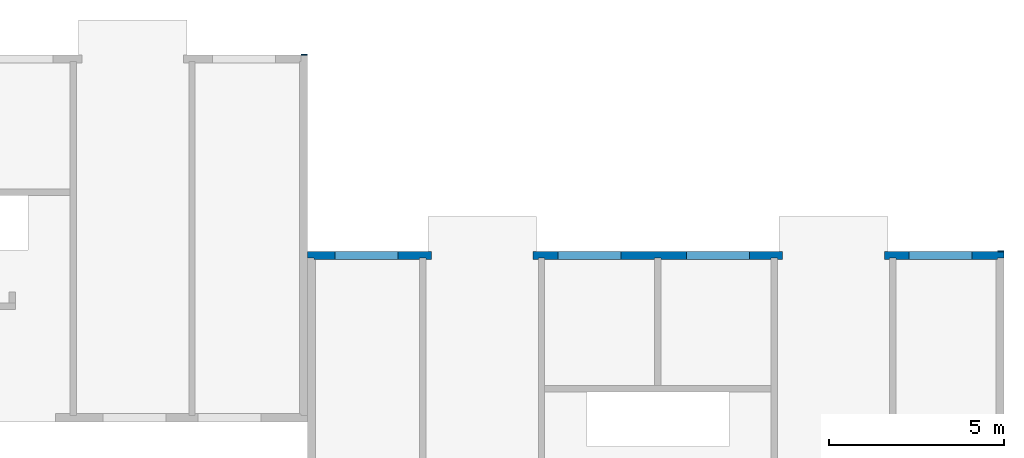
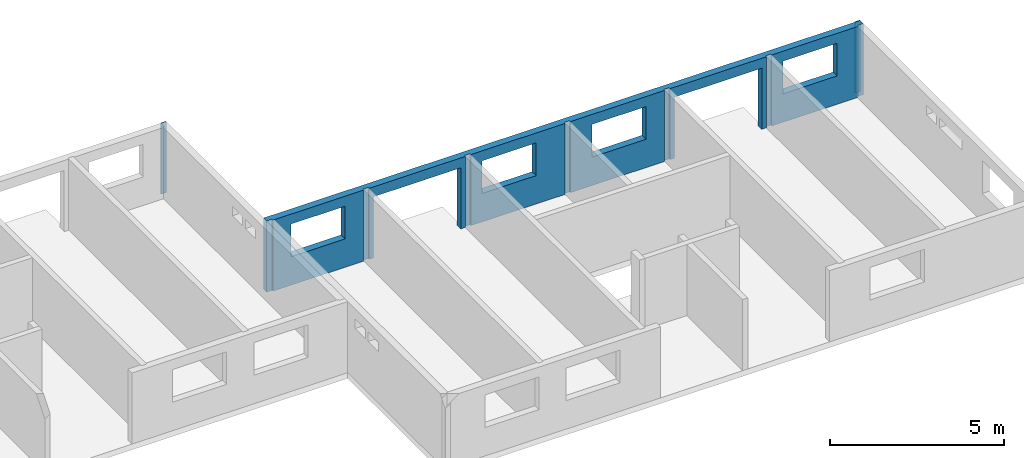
# One storey, part 9 of 9: 3 walls, 6 openings.
"""IFC2X3 building model written with IfcOpenShell, lengths in millimetres."""

from ifc_helpers import new_model, entity, si_unit, converted_unit, frame, frame_2d, origin, origin_with_axes, place, context, subcontext, project, spatial, polyline, rectangle, outline, extrude, material, layer, layer_set, layer_usage, element, save


model = new_model("IFC2X3")

# Units and contexts
model_context = context("Model", 3, precision=1e-05, world=origin())
plan_context = context("Plan", 3, precision=1e-05, world=origin())
body_context = subcontext(model_context, "Body", "Model", "MODEL_VIEW")
ifc_project = project(units=[si_unit("LENGTHUNIT", "METRE", prefix="MILLI"), converted_unit("PLANEANGLEUNIT", "DEGREE", entity("IfcPlaneAngleMeasure", 0.0174532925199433), si_unit("PLANEANGLEUNIT", "RADIAN"), dimensions=[0, 0, 0, 0, 0, 0, 0]), si_unit("AREAUNIT", "SQUARE_METRE"), si_unit("VOLUMEUNIT", "CUBIC_METRE")], contexts=[model_context, plan_context])

# Building, storey
building_placement = place(None, origin())
building = spatial("IfcBuilding", under=ifc_project, at=building_placement, Name="Bâtiment", CompositionType="ELEMENT")
storey_placement = place(building_placement, frame((0.0, 0.0, 5400.0), z_axis=(0.0, 0.0, 1.0), x_axis=(1.0, 0.0, 0.0)))
storey = spatial("IfcBuildingStorey", under=building, at=storey_placement, Name="r+2", CompositionType="ELEMENT", Elevation=5400.0)

# Wall
ifc_material_1 = material(Name="moellons")
ifc_layer_1 = layer(ifc_material_1, 20.00000000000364)
ifc_layer_set_1 = layer_set([ifc_layer_1])
ifc_layer_usage_1 = layer_usage(ifc_layer_set_1, "AXIS2", "POSITIVE", 0.0)
wall_1_placement = place(storey_placement, frame((39699.99999999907, 10470.07776548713, 0.0), z_axis=(0.0, 0.0, 1.0), x_axis=(-1.0, 0.0, 0.0)))
element("IfcWallStandardCase", 1, at=wall_1_placement, inside=storey, material=ifc_layer_usage_1, context=body_context, shape_type="SweptSolid", body=[
    extrude(rectangle(XDim=180.0, YDim=20.00000000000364, at=frame_2d((90.0, 10.00000000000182), x_axis=(1.0, 0.0))), frame((0.0, -20.00000000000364, 0.0), z_axis=(0.0, 0.0, 1.0), x_axis=(1.0, 0.0, 0.0)), (0.0, 0.0, 1.0), 2500.0),
])

# Wall, openings
ifc_material_2 = material(Name="moellons")
ifc_layer_2 = layer(ifc_material_2, 180.0)
ifc_material_3 = material(Name="briquettes")
ifc_layer_3 = layer(ifc_material_3, 40.0)
ifc_material_4 = material(Name="enduit platre")
ifc_layer_4 = layer(ifc_material_4, 10.0)
ifc_layer_set_2 = layer_set([ifc_layer_2, ifc_layer_3, ifc_layer_4])
ifc_layer_usage_2 = layer_usage(ifc_layer_set_2, "AXIS2", "POSITIVE", 0.0)
wall_2_placement = place(storey_placement, frame((59549.99999999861, 4870.077765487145, -9.094947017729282e-13), z_axis=(0.0, 0.0, 1.0), x_axis=(-1.0, 9.163674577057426e-17, 0.0)))
wall_2 = element("IfcWallStandardCase", 2, at=wall_2_placement, inside=storey, material=ifc_layer_usage_2, context=body_context, shape_type="SweptSolid", body=[
    extrude(outline(polyline([(16649.99999999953, 179.9999999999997), (16469.99999999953, 179.9999999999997), (16469.99999999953, 229.9999999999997), (13269.99999999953, 230.0000000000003), (13269.99999999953, 179.9999999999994), (13089.99999999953, 180.0000000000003), (13089.99999999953, 230.0000000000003), (9954.999999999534, 230.0000000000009), (9954.999999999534, 180.0), (9774.999999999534, 180.0000000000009), (9774.999999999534, 230.0000000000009), (6640.000061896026, 230.0000000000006), (6640.000061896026, 179.9999999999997), (6460.000061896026, 180.0000000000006), (6460.000061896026, 230.0000000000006), (3259.999999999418, 230.0000000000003), (3259.999999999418, 180.0000000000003), (3079.999999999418, 180.0000000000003), (3079.999999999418, 230.0000000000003), (220.0, 230.0), (220.0, 220.0), (180.0, 220.0), (180.0, 180.0), (-1.649461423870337e-14, 180.0), (0.0, 0.0), (19849.99999999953, 0.0), (19849.99999999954, 180.0), (19669.99999999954, 180.0), (19669.99999999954, 220.0), (19629.99999999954, 220.0), (19629.99999999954, 230.0), (16649.99999999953, 229.9999999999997), (16649.99999999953, 179.9999999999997)])), origin_with_axes(), (0.0, 0.0, 1.0), 2500.000000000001),
])
opening_1_placement = place(wall_2_placement, frame((17264.99999999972, -1.818989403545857e-12, 1000.000000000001), z_axis=(0.0, 1.0, 0.0), x_axis=(0.0, 0.0, 1.0)))
element("IfcOpeningElement", 3, at=opening_1_placement, cuts=wall_2, Name="Baie de fenêtre", ObjectType="Opening", context=body_context, shape_type="SweptSolid", body=[
    extrude(rectangle(XDim=1150.0, YDim=1800.0, at=frame_2d((575.0, 900.0), x_axis=(1.0, 0.0))), origin_with_axes(), (0.0, 0.0, 1.0), 229.9999999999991),
])
opening_2_placement = place(wall_2_placement, frame((10915.00000000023, -9.094947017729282e-13, 1000.000000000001), z_axis=(0.0, 1.0, 0.0), x_axis=(0.0, 0.0, 1.0)))
element("IfcOpeningElement", 4, at=opening_2_placement, cuts=wall_2, Name="Baie de fenêtre", ObjectType="Opening", context=body_context, shape_type="SweptSolid", body=[
    extrude(rectangle(XDim=1150.0, YDim=1800.0, at=frame_2d((575.0, 900.0), x_axis=(1.0, 0.0))), origin_with_axes(), (0.0, 0.0, 1.0), 230.0000000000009),
])
opening_3_placement = place(wall_2_placement, frame((7254.999999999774, -9.094947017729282e-13, 1000.000000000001), z_axis=(0.0, 1.0, 0.0), x_axis=(0.0, 0.0, 1.0)))
element("IfcOpeningElement", 5, at=opening_3_placement, cuts=wall_2, Name="Baie de fenêtre", ObjectType="Opening", context=body_context, shape_type="SweptSolid", body=[
    extrude(rectangle(XDim=1150.0, YDim=1800.0, at=frame_2d((575.0, 900.0), x_axis=(1.0, 0.0))), origin_with_axes(), (0.0, 0.0, 1.0), 230.0000000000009),
])
opening_4_placement = place(wall_2_placement, frame((905.0000000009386, 0.0, 1000.000000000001), z_axis=(0.0, 1.0, 0.0), x_axis=(0.0, 0.0, 1.0)))
element("IfcOpeningElement", 6, at=opening_4_placement, cuts=wall_2, Name="Baie de fenêtre", ObjectType="Opening", context=body_context, shape_type="SweptSolid", body=[
    extrude(rectangle(XDim=1150.0, YDim=1800.0, at=frame_2d((575.0, 900.0), x_axis=(1.0, 0.0))), origin_with_axes(), (0.0, 0.0, 1.0), 230.0),
])
opening_5_placement = place(wall_2_placement, frame((13419.99999999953, -1.818989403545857e-12, 9.094947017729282e-13), z_axis=(0.0, 1.0, 0.0), x_axis=(0.0, 0.0, 1.0)))
element("IfcOpeningElement", 7, at=opening_5_placement, cuts=wall_2, Name="Baie de porte", ObjectType="Opening", context=body_context, shape_type="SweptSolid", body=[
    extrude(rectangle(XDim=2150.0, YDim=2900.0, at=frame_2d((1075.0, 1450.0), x_axis=(1.0, 0.0))), origin_with_axes(), (0.0, 0.0, 1.0), 230.0),
])
opening_6_placement = place(wall_2_placement, frame((3410.000030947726, -9.094947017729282e-13, 9.094947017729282e-13), z_axis=(0.0, 1.0, 0.0), x_axis=(0.0, 0.0, 1.0)))
element("IfcOpeningElement", 8, at=opening_6_placement, cuts=wall_2, Name="Baie de porte", ObjectType="Opening", context=body_context, shape_type="SweptSolid", body=[
    extrude(rectangle(XDim=2150.0, YDim=2900.0, at=frame_2d((1075.0, 1450.0), x_axis=(1.0, 0.0))), origin_with_axes(), (0.0, 0.0, 1.0), 230.0000000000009),
])

# Wall
ifc_material_5 = material(Name="moellons")
ifc_layer_5 = layer(ifc_material_5, 20.00000000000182)
ifc_layer_set_3 = layer_set([ifc_layer_5])
ifc_layer_usage_3 = layer_usage(ifc_layer_set_3, "AXIS2", "POSITIVE", 0.0)
wall_3_placement = place(storey_placement, frame((59549.99999999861, 4870.077765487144, 0.0), z_axis=(0.0, 0.0, 1.0), x_axis=(-1.0, 0.0, 0.0)))
element("IfcWallStandardCase", 9, at=wall_3_placement, inside=storey, material=ifc_layer_usage_3, context=body_context, shape_type="SweptSolid", body=[
    extrude(rectangle(XDim=180.0, YDim=20.00000000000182, at=frame_2d((90.0, 10.00000000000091), x_axis=(1.0, 0.0))), frame((0.0, -20.00000000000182, 0.0), z_axis=(0.0, 0.0, 1.0), x_axis=(1.0, 0.0, 0.0)), (0.0, 0.0, 1.0), 2500.0),
])

save(model, "model.ifc")
